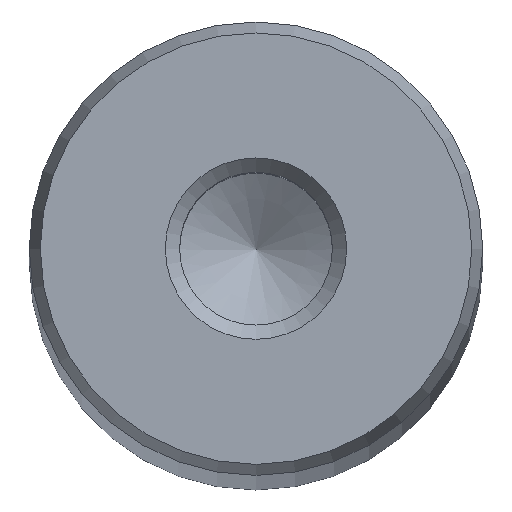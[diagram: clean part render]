
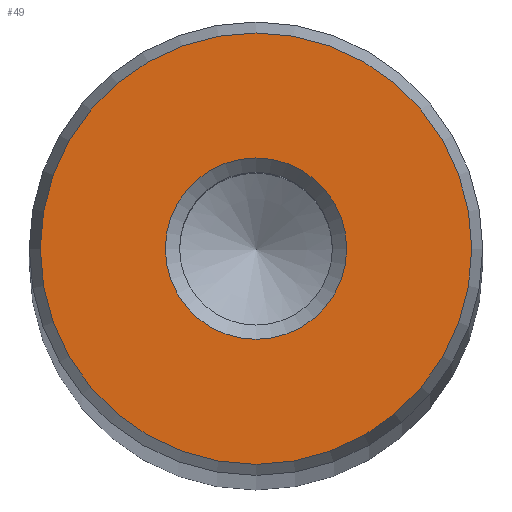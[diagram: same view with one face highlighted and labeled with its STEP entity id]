
A CAD part, top view. The second image highlights one B-rep face of the part: STEP entity #49.
In plain terms, the highlighted planar face has unit normal (0, 0, 1).
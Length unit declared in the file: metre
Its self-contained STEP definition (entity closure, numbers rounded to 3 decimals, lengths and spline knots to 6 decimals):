
#49 = ADVANCED_FACE( '', ( #104, #105 ), #106, .T. );
#104 = FACE_OUTER_BOUND( '', #163, .T. );
#105 = FACE_BOUND( '', #164, .T. );
#106 = PLANE( '', #165 );
#163 = EDGE_LOOP( '', ( #228 ) );
#164 = EDGE_LOOP( '', ( #229 ) );
#165 = AXIS2_PLACEMENT_3D( '', #230, #231, #232 );
#228 = ORIENTED_EDGE( '', *, *, #287, .T. );
#229 = ORIENTED_EDGE( '', *, *, #288, .T. );
#230 = CARTESIAN_POINT( '', ( 0., 0., 0.555 ) );
#231 = DIRECTION( '', ( 0., 0., 1. ) );
#232 = DIRECTION( '', ( 1., 0., 0. ) );
#287 = EDGE_CURVE( '', #321, #321, #322, .T. );
#288 = EDGE_CURVE( '', #323, #323, #324, .T. );
#321 = VERTEX_POINT( '', #358 );
#322 = CIRCLE( '', #359, 0.014272 );
#323 = VERTEX_POINT( '', #360 );
#324 = CIRCLE( '', #361, 0.006 );
#358 = CARTESIAN_POINT( '', ( 0.014272, 0., 0.555 ) );
#359 = AXIS2_PLACEMENT_3D( '', #397, #398, #399 );
#360 = CARTESIAN_POINT( '', ( 0.006, 0., 0.555 ) );
#361 = AXIS2_PLACEMENT_3D( '', #400, #401, #402 );
#397 = CARTESIAN_POINT( '', ( 0., 0., 0.555 ) );
#398 = DIRECTION( '', ( 0., 0., 1. ) );
#399 = DIRECTION( '', ( 1., 0., 0. ) );
#400 = CARTESIAN_POINT( '', ( 0., 0., 0.555 ) );
#401 = DIRECTION( '', ( 0., 0., -1. ) );
#402 = DIRECTION( '', ( 1., 0., 0. ) );
